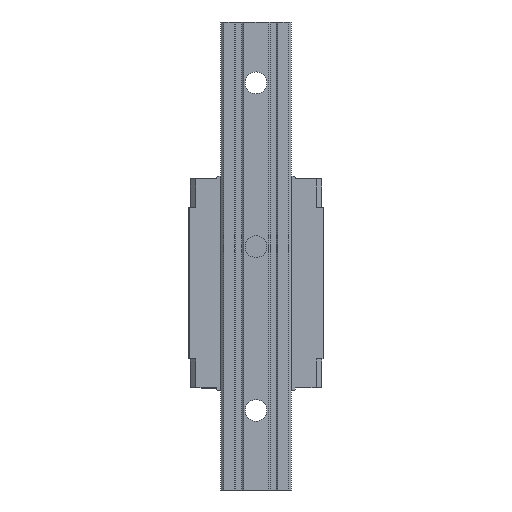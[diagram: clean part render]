
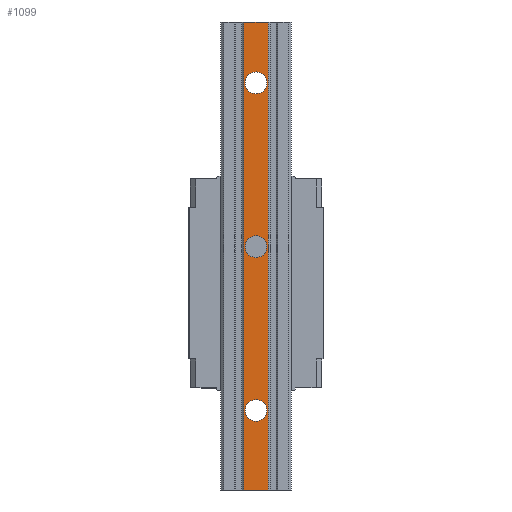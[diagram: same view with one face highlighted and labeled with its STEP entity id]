
A CAD part, front view. The second image highlights one B-rep face of the part: STEP entity #1099.
In plain terms, the highlighted planar face has unit normal (0, -1, 0).
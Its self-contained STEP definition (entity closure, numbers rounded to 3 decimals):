
#1099=ADVANCED_FACE('',(#3401,#3402,#3403,#3404),#1600,.T.);
#1600=PLANE('',#9243);
#1887=LINE('',#12213,#2615);
#1916=LINE('',#12300,#2644);
#1917=LINE('',#12302,#2645);
#1918=LINE('',#12304,#2646);
#2615=VECTOR('',#9968,1.);
#2644=VECTOR('',#10039,1.);
#2645=VECTOR('',#10040,1.);
#2646=VECTOR('',#10041,1.);
#3401=FACE_BOUND('',#3589,.T.);
#3402=FACE_BOUND('',#3590,.T.);
#3403=FACE_BOUND('',#3591,.T.);
#3404=FACE_BOUND('',#3592,.T.);
#3589=EDGE_LOOP('',(#4262));
#3590=EDGE_LOOP('',(#4263,#4264,#4265,#4266));
#3591=EDGE_LOOP('',(#4267));
#3592=EDGE_LOOP('',(#4268));
#4262=ORIENTED_EDGE('',*,*,#7709,.F.);
#4263=ORIENTED_EDGE('',*,*,#7710,.T.);
#4264=ORIENTED_EDGE('',*,*,#7666,.F.);
#4265=ORIENTED_EDGE('',*,*,#7711,.F.);
#4266=ORIENTED_EDGE('',*,*,#7712,.T.);
#4267=ORIENTED_EDGE('',*,*,#7713,.T.);
#4268=ORIENTED_EDGE('',*,*,#7714,.T.);
#6779=VERTEX_POINT('',#12212);
#6780=VERTEX_POINT('',#12214);
#6816=VERTEX_POINT('',#12299);
#6817=VERTEX_POINT('',#12301);
#6818=VERTEX_POINT('',#12303);
#6819=VERTEX_POINT('',#12306);
#6820=VERTEX_POINT('',#12308);
#7666=EDGE_CURVE('',#6779,#6780,#1887,.T.);
#7709=EDGE_CURVE('',#6816,#6816,#8945,.T.);
#7710=EDGE_CURVE('',#6817,#6780,#1916,.T.);
#7711=EDGE_CURVE('',#6818,#6779,#1917,.T.);
#7712=EDGE_CURVE('',#6818,#6817,#1918,.T.);
#7713=EDGE_CURVE('',#6819,#6819,#8946,.T.);
#7714=EDGE_CURVE('',#6820,#6820,#8947,.T.);
#8945=CIRCLE('',#9240,7.);
#8946=CIRCLE('',#9241,7.);
#8947=CIRCLE('',#9242,7.);
#9240=AXIS2_PLACEMENT_3D('',#12298,#10037,#10038);
#9241=AXIS2_PLACEMENT_3D('',#12305,#10042,#10043);
#9242=AXIS2_PLACEMENT_3D('',#12307,#10044,#10045);
#9243=AXIS2_PLACEMENT_3D('',#12309,#10046,#10047);
#9968=DIRECTION('',(1.,0.,0.));
#10037=DIRECTION('',(0.,-1.,0.));
#10038=DIRECTION('',(0.,0.,1.));
#10039=DIRECTION('',(0.,0.,1.));
#10040=DIRECTION('',(0.,0.,1.));
#10041=DIRECTION('',(1.,0.,0.));
#10042=DIRECTION('',(0.,1.,0.));
#10043=DIRECTION('',(0.,0.,1.));
#10044=DIRECTION('',(0.,1.,0.));
#10045=DIRECTION('',(0.,0.,1.));
#10046=DIRECTION('',(0.,-1.,0.));
#10047=DIRECTION('',(0.,0.,-1.));
#12212=CARTESIAN_POINT('',(-6.297,-14.083,409.715));
#12213=CARTESIAN_POINT('',(21.797,-14.083,409.715));
#12214=CARTESIAN_POINT('',(9.703,-14.083,409.715));
#12298=CARTESIAN_POINT('',(1.703,-14.083,370.715));
#12299=CARTESIAN_POINT('',(1.703,-14.083,377.715));
#12300=CARTESIAN_POINT('',(9.703,-14.083,80.715));
#12301=CARTESIAN_POINT('',(9.703,-14.083,109.715));
#12302=CARTESIAN_POINT('',(-6.297,-14.083,410.715));
#12303=CARTESIAN_POINT('',(-6.297,-14.083,109.715));
#12304=CARTESIAN_POINT('',(1.703,-14.083,109.715));
#12305=CARTESIAN_POINT('',(1.703,-14.083,160.715));
#12306=CARTESIAN_POINT('',(1.703,-14.083,167.715));
#12307=CARTESIAN_POINT('',(1.703,-14.083,265.715));
#12308=CARTESIAN_POINT('',(1.703,-14.083,272.715));
#12309=CARTESIAN_POINT('',(1.703,-14.083,80.715));
